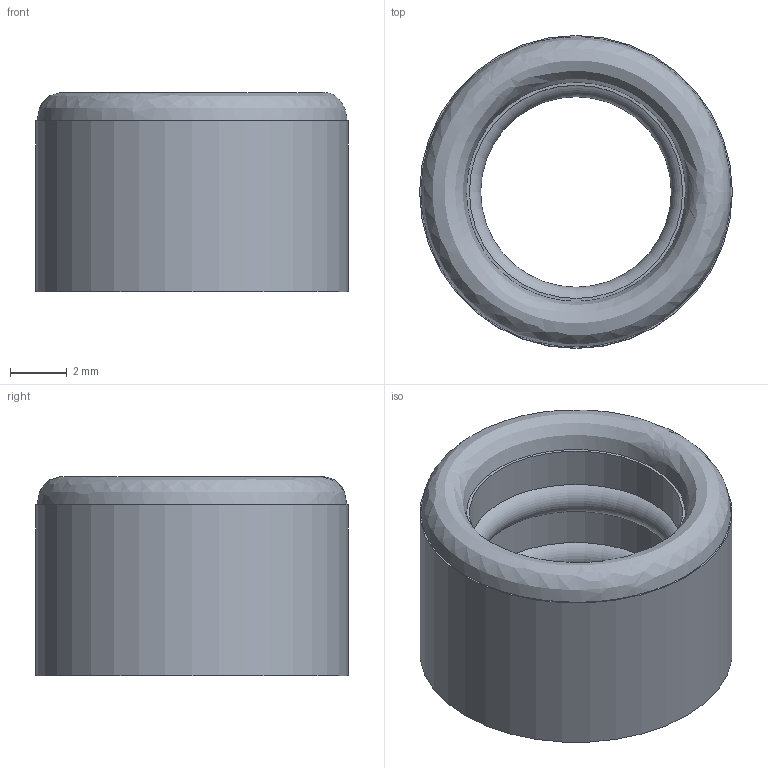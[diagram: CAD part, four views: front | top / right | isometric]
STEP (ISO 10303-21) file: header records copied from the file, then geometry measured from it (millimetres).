
FILE_DESCRIPTION(('FreeCAD Model'),'2;1');
FILE_NAME('Open CASCADE Shape Model','2026-09-29T21:45:25',('Author'),( ''),'Open CASCADE STEP processor 7.8','FreeCAD','Unknown');
FILE_SCHEMA(('AUTOMOTIVE_DESIGN { 1 0 10303 214 1 1 1 1 }'));
Length unit declared in the file: millimetre
Products named in the file (1): cable_seal_b6p7_L7p0
Bounding box: 11 x 11 x 7 mm (x, y, z)
Volume: 357.3 mm3; surface area: 498.7 mm2
Topology: 1 solids, 1 shells, 10 faces, 17 edges, 10 vertices
Faces by surface type: cylinder 4, plane 3, torus 2, bspline 1
Full cylindrical faces by diameter (mm): 7.5 x3, 11 x1
Entity records: 434 total; most frequent: CARTESIAN_POINT 231, DIRECTION 44, ORIENTED_EDGE 34, AXIS2_PLACEMENT_3D 20, EDGE_CURVE 17, FACE_BOUND 13, EDGE_LOOP 13, ADVANCED_FACE 10
